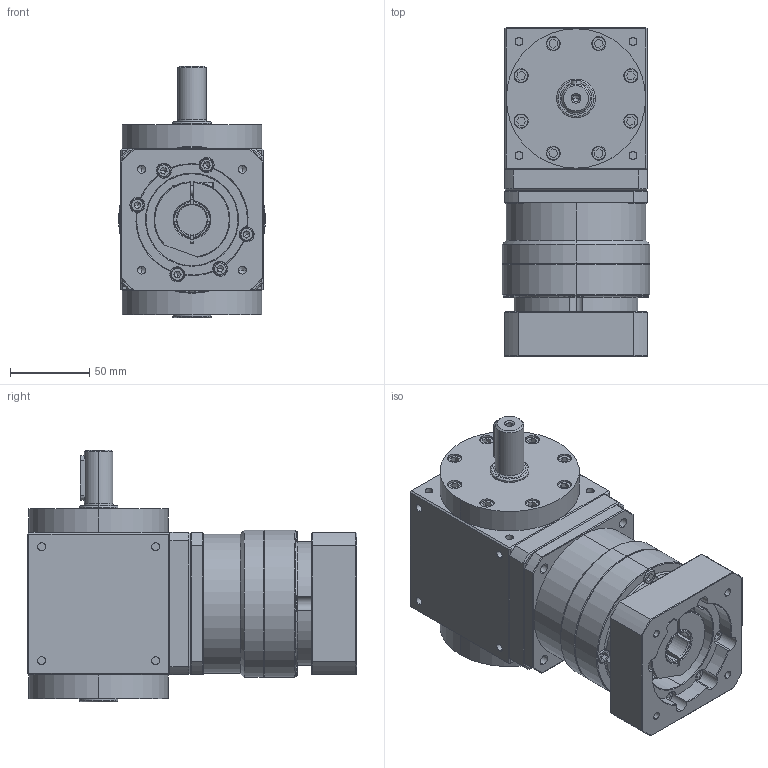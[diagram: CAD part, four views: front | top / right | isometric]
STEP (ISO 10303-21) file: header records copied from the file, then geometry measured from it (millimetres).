
FILE_DESCRIPTION (( 'STEP AP203' ), '1' );
FILE_NAME ('AT090-FR1-L1 19-70-90-M6.STEP', '2024-12-19T08:39:27', ( '' ), ( '' ), 'SwSTEP 2.0', 'SolidWorks 2021', '' );
FILE_SCHEMA (( 'CONFIG_CONTROL_DESIGN' ));
Length unit declared in the file: millimetre
Products named in the file (3): AT090-FR1-L1 19-70-90-M6; AT090-FR1; VRB-090-L1-S2-P1 19-70-90-M6
Assembly tree (2 placements, depth 2):
  AT090-FR1-L1 19-70-90-M6
    AT090-FR1
    VRB-090-L1-S2-P1 19-70-90-M6
Bounding box: 93 x 208 x 159 mm (x, y, z)
Volume: 1647253.5 mm3; surface area: 207298.9 mm2
Topology: 32 solids, 32 shells, 1321 faces, 3197 edges, 1991 vertices
Faces by surface type: plane 578, cylinder 504, cone 195, torus 38, bspline 6
Entity records: 40668 total; most frequent: CARTESIAN_POINT 9354, DIRECTION 6788, ORIENTED_EDGE 6266, EDGE_CURVE 3133, AXIS2_PLACEMENT_3D 2626, VERTEX_POINT 1991, LINE 1536, VECTOR 1536
